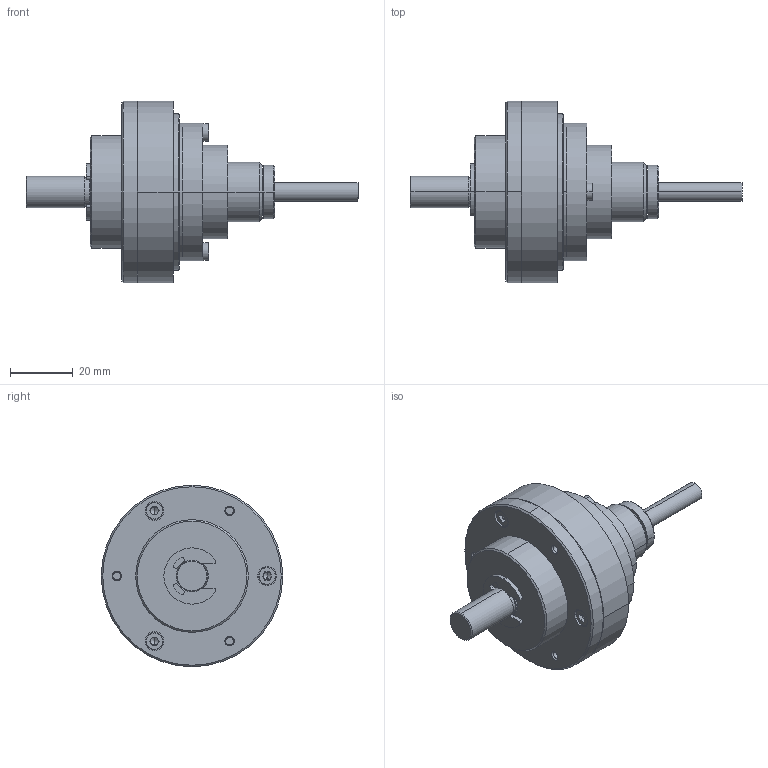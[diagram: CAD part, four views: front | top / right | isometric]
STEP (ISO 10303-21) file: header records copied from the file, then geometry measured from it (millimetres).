
FILE_DESCRIPTION (( 'STEP AP214' ), '1' );
FILE_NAME ('ËÈÐ-ÌÑ158Ë èñï 4.STEP', '2017-05-23T08:29:33', ( '' ), ( '' ), 'SwSTEP 2.0', 'SolidWorks 2013', '' );
FILE_SCHEMA (( 'AUTOMOTIVE_DESIGN' ));
Length unit declared in the file: millimetre
Products named in the file (1): ËÈÐ-ÌÑ158Ë èñï 4
Bounding box: 106.03 x 58 x 58 mm (x, y, z)
Volume: 67486.1 mm3; surface area: 48364 mm2
Topology: 35 solids, 35 shells, 1985 faces, 5174 edges, 3246 vertices
Faces by surface type: cone 817, cylinder 661, plane 239, torus 128, sphere 128, bspline 12
Entity records: 96595 total; most frequent: CARTESIAN_POINT 24588, DIRECTION 11291, ORIENTED_EDGE 10292, EDGE_CURVE 5146, AXIS2_PLACEMENT_3D 4818, VERTEX_POINT 3246, CIRCLE 2844, EDGE_LOOP 2140
